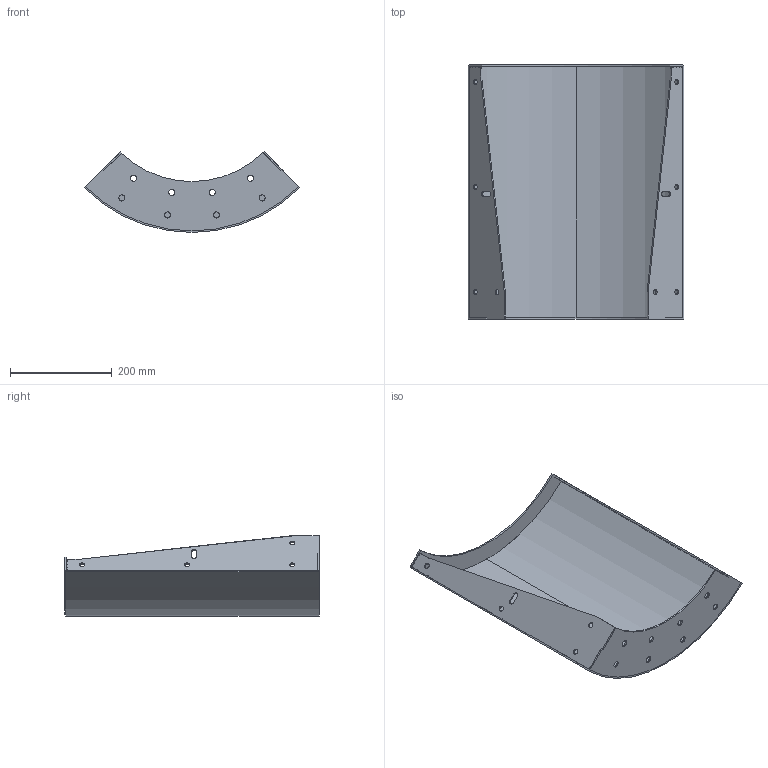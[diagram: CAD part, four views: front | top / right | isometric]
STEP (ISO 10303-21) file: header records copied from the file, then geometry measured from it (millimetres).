
FILE_DESCRIPTION (( 'STEP AP203' ), '1' );
FILE_NAME ('CURVE.STEP', '2026-03-31T12:01:30', ( '' ), ( '' ), 'SwSTEP 2.0', 'SolidWorks 2025', '' );
FILE_SCHEMA (( 'CONFIG_CONTROL_DESIGN' ));
Length unit declared in the file: millimetre
Products named in the file (5): BASE RETURN^CURVE; GS2; CURVE; PLANTER WALL^CURVE; TOP RETURN^CURVE
Assembly tree (5 placements, depth 2):
  CURVE
    PLANTER WALL^CURVE
    TOP RETURN^CURVE
    BASE RETURN^CURVE
    GS2  x2
Bounding box: 424.26 x 500 x 158.95 mm (x, y, z)
Volume: 1052645.1 mm3; surface area: 722146.7 mm2
Topology: 5 solids, 5 shells, 130 faces, 360 edges, 240 vertices
Faces by surface type: cylinder 74, plane 56
Entity records: 3365 total; most frequent: DIRECTION 522, CARTESIAN_POINT 484, ORIENTED_EDGE 468, EDGE_CURVE 234, AXIS2_PLACEMENT_3D 194, VERTEX_POINT 156, LINE 134, VECTOR 134
